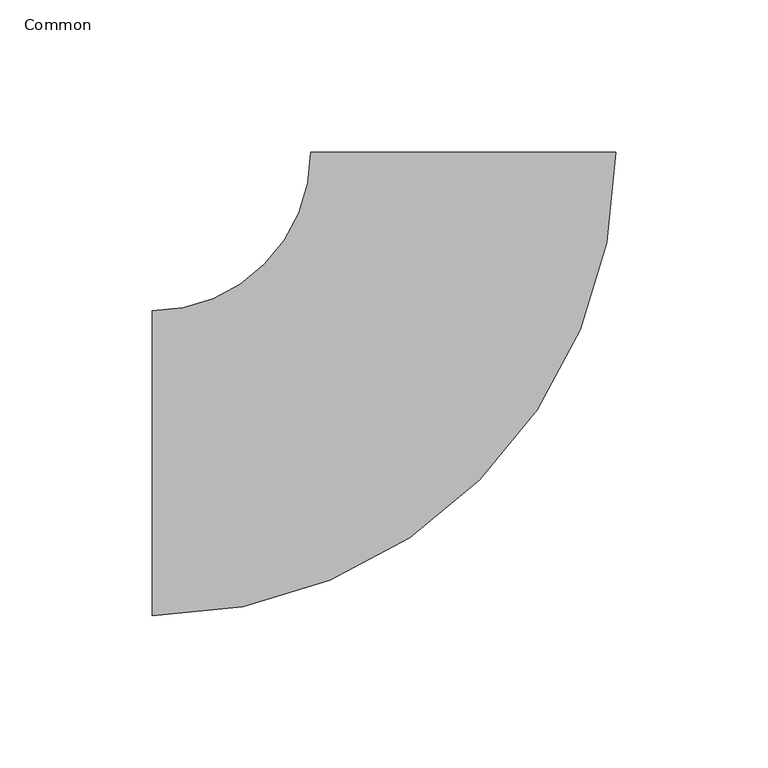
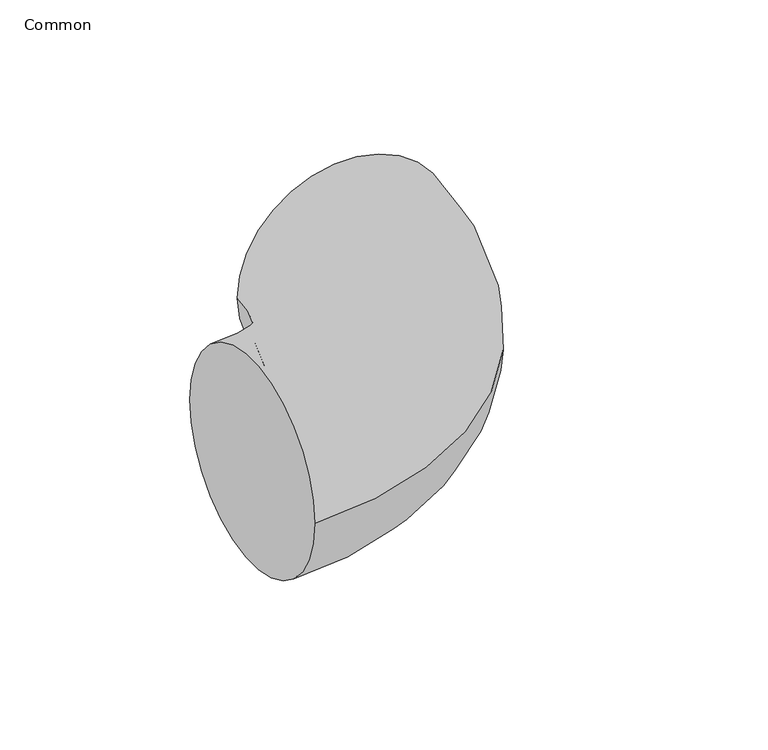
"""IFC4 building model written with IfcOpenShell, lengths in millimetres: pipe fitting geometry, 012_エルボ_冷媒管 : Common."""

from ifc_helpers import new_model, si_unit, point, frame, origin, place, context, project, spatial, circle_curve, ellipse_curve, trimmed, source, transform, mapped, element, save
from ifc_brep_helpers import plane_surface, revolved_surface, advanced_brep


def common_4825b033(model_context):
    return source(origin(), model_context, "Body", "AdvancedBrep", [
        advanced_brep(
        [(-102.0, -50.0, 0.0), (-102.0, 50.0, 0.0), (49.9935834, 102.0031451, 0.0), (-50.0064164, 101.9968544, 0.0)],
        [
            (0, 1, circle_curve(frame((-102.0, 0.0, 0.0), z_axis=(-1.0, 0.0, 0.0), x_axis=(0.0, 1.0, 0.0)), 50.0)),
            (1, 0, circle_curve(frame((-102.0, 0.0, 0.0), z_axis=(-1.0, 0.0, 0.0), x_axis=(0.0, 1.0, 0.0)), 50.0)),
            (2, 3, circle_curve(frame((-0.0064165, 101.9999998, 0.0), z_axis=(-6.290697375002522e-05, 0.9999999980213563, 0.0), x_axis=(-0.9999999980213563, -6.290697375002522e-05, 0.0)), 50.0)),
            (3, 2, circle_curve(frame((-0.0064165, 101.9999998, 0.0), z_axis=(-6.290697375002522e-05, 0.9999999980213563, 0.0), x_axis=(-0.9999999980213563, -6.290697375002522e-05, 0.0)), 50.0)),
            (3, 1, circle_curve(frame((-102.0, 101.9935837, 0.0), z_axis=(0.0, 0.0, -1.0), x_axis=(0.0, -1.0, 0.0)), 51.9935837)),
            (0, 2, circle_curve(frame((-102.0, 101.9935837, 0.0), z_axis=(0.0, 0.0, 1.0), x_axis=(0.0, -1.0, 0.0)), 151.9935837)),
        ],
        [
            plane_surface(frame((-102.0, 0.0, 0.0), z_axis=(-1.0, 0.0, 0.0), x_axis=(0.0, 0.0, 1.0))),
            plane_surface(frame((-0.0064165, 101.9999998, 0.0), z_axis=(-6.290697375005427e-05, 0.9999999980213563, 0.0), x_axis=(0.0, 0.0, 1.0))),
            revolved_surface(trimmed(ellipse_curve(frame((-102.0, 0.0, 0.0), z_axis=(-1.0, 0.0, 0.0), x_axis=(0.0, 1.0, 0.0)), 50.0, 50.0), [point((-102.0, -50.0, 0.0))], [point((-102.0, 50.0, 0.0))], True, "CARTESIAN"), (-102.0, 101.9935837, 0.0), (0.0, 0.0, 1.0)),
            revolved_surface(trimmed(ellipse_curve(frame((-102.0, 0.0, 0.0), z_axis=(-1.0, 0.0, 0.0), x_axis=(0.0, 1.0, 0.0)), 50.0, 50.0), [point((-102.0, 50.0, 0.0))], [point((-102.0, -50.0, 0.0))], True, "CARTESIAN"), (-102.0, 101.9935837, 0.0), (0.0, 0.0, 1.0)),
        ],
        [
            (0, [[1, 2]]),
            (1, [[3, 4]]),
            (2, [[5, -1, 6, -4]]),
            (3, [[-6, -2, -5, -3]]),
        ],
    ),
    ])


if __name__ == "__main__":
    model = new_model("IFC4")
    model_context = context("Model", 3, world=origin())
    ifc_project = project(units=[si_unit("LENGTHUNIT", "METRE", prefix="MILLI")], contexts=[model_context])
    site = spatial("IfcSite", under=ifc_project)
    building = spatial("IfcBuilding", under=site)
    placement = place(None, origin())
    common_shape = common_4825b033(model_context)
    element("IfcPipeFitting", 1, ObjectType="012_エルボ_冷媒管 : Common", at=placement, inside=building, context=model_context, shape_type="MappedRepresentation", body=[
        mapped(common_shape, transform((0.0, 0.0, 0.0), x_axis=(1.0, 0.0, 0.0), y_axis=(0.0, 1.0, 0.0), z_axis=(0.0, 0.0, 1.0))),
    ])
    save(model, "model.ifc")
